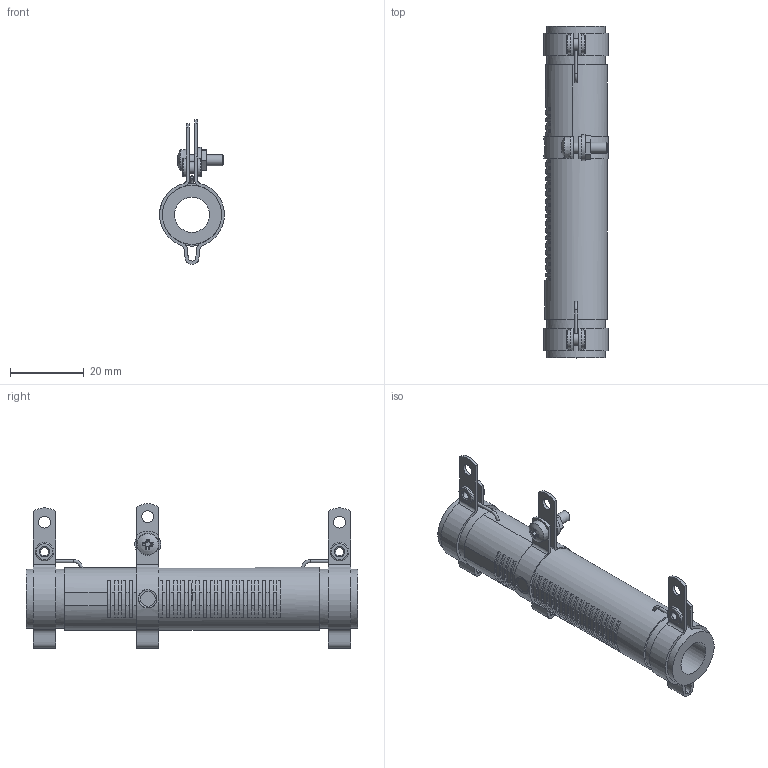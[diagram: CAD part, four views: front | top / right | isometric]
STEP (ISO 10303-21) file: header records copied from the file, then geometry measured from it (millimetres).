
FILE_DESCRIPTION(/* description */ (''),/* implementation_level */ '2;1');
FILE_NAME(/* name */ 'C:\_Vault\Dati\CATALOGO\RC-RS\RCR-RSR TC\RSR TC 50.stp',/* time_stamp */ '2014-03-20T11:23:51+01:00',/* author */ ('stefano'),/* organization */ (''),/* preprocessor_version */ 'ST-DEVELOPER v15.2',/* originating_system */ 'Autodesk Inventor 2014',/* authorisation */ '');
FILE_SCHEMA (('AUTOMOTIVE_DESIGN { 1 0 10303 214 3 1 1 }'));
Length unit declared in the file: millimetre
Products named in the file (1): RSR TC 50
Bounding box: 17.59 x 90 x 39.18 mm (x, y, z)
Volume: 14614.3 mm3; surface area: 10199.8 mm2
Topology: 1 solids, 5 shells, 294 faces, 799 edges, 527 vertices
Faces by surface type: plane 175, cylinder 77, cone 18, bspline 12, torus 11, sphere 1
Full cylindrical faces by diameter (mm): 0.4 x2, 0.8 x4, 2.2 x2, 2.75 x1, 3 x1, 3.2 x7, 4.134 x1, 5 x4, 7 x1, 9.5 x1, 16 x2, 17 x1
Entity records: 10034 total; most frequent: CARTESIAN_POINT 2368, DIRECTION 1540, ORIENTED_EDGE 1476, EDGE_CURVE 738, AXIS2_PLACEMENT_3D 576, VERTEX_POINT 512, LINE 388, VECTOR 388
